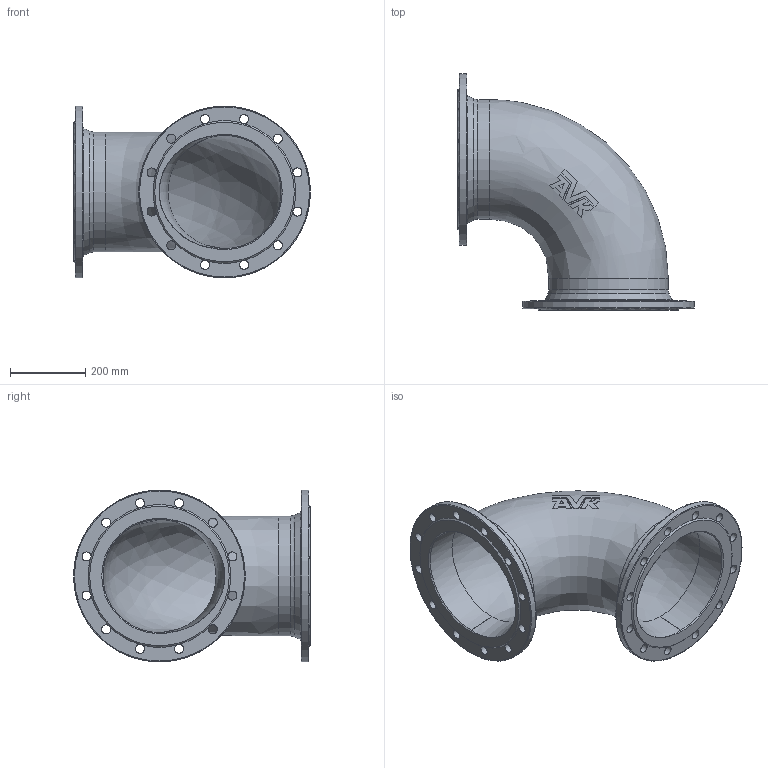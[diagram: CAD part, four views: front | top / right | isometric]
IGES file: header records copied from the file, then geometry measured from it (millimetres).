
Start section: SolidWorks IGES file using analytic representation for surfaces
Global section: file name: \\avksan2\techshare\PBM outline export from Enovia\O_712_0610_DN300_0X_REV01.igs; native system: SolidWorks 2019; preprocessor: SolidWorks 2019; author: pbm; date: 211119.111336; units: millimetre
Bounding box: 627.5 x 627.5 x 455 mm (x, y, z)
Surface area: 1637476 mm2 (no closed solid volume)
Topology: 0 solids, 0 shells, 95 faces, 561 edges, 519 vertices
Faces by surface type: revolution 54, bspline 41
